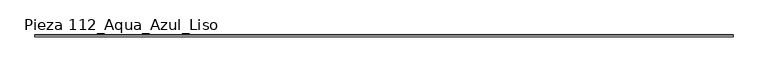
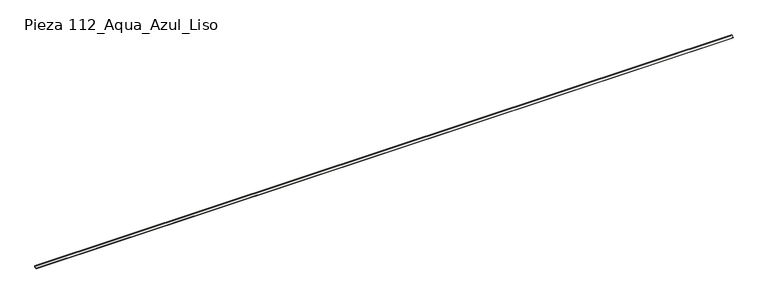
"""IFC4 building model written with IfcOpenShell, lengths in millimetres: slab geometry, ROSA GRES_112 : Pieza 112_Aqua_Azul_Liso."""

from ifc_helpers import new_model, si_unit, point, frame, frame_2d, origin, place, context, project, spatial, polyline, circle_curve, trimmed, segment, composite_curve, outline, extrude, source, transform, mapped, element, save


def pieza_112_aqua_azul_liso_e5a649f2(model_context):
    return source(origin(), model_context, "Body", "SweptSolid", [
        extrude(outline(composite_curve([segment(polyline([(0.0, 8.7114978), (-8.7114978, 0.0), (-40.0, 0.0), (-40.0, 9.9734114)]), True, "CONTINUOUS"), segment(trimmed(circle_curve(frame_2d((-39.9955547, 39.9955547)), 30.0221435), [point((-40.0, 9.9734114))], [point((-9.9734114, 40.0))], True, "CARTESIAN"), True, "CONTINUOUS"), segment(polyline([(-9.9734114, 40.0), (0.0, 40.0), (0.0, 8.7114978)]), True, "CONTINUOUS")], self_intersect=False)), frame((0.0, 0.0, 0.0), z_axis=(1.0, 0.0, 0.0), x_axis=(0.0, 1.0, 0.0)), (0.0, 0.0, 1.0), 13771.3294246),
    ])


if __name__ == "__main__":
    model = new_model("IFC4")
    model_context = context("Model", 3, world=origin())
    ifc_project = project(units=[si_unit("LENGTHUNIT", "METRE", prefix="MILLI")], contexts=[model_context])
    site = spatial("IfcSite", under=ifc_project)
    building = spatial("IfcBuilding", under=site)
    placement = place(None, origin())
    pieza_112_aqua_azul_liso_shape = pieza_112_aqua_azul_liso_e5a649f2(model_context)
    element("IfcSlab", 1, ObjectType="ROSA GRES_112 : Pieza 112_Aqua_Azul_Liso", at=placement, inside=building, context=model_context, shape_type="MappedRepresentation", body=[
        mapped(pieza_112_aqua_azul_liso_shape, transform((0.0, 0.0, 0.0), x_axis=(1.0, 0.0, 0.0), y_axis=(0.0, 1.0, 0.0), z_axis=(0.0, 0.0, 1.0))),
    ])
    save(model, "model.ifc")
